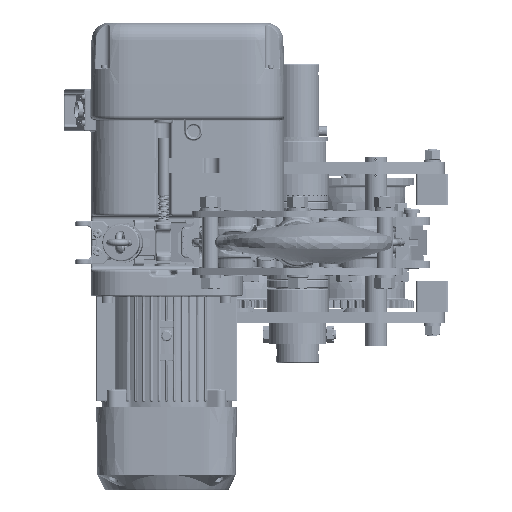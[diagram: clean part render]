
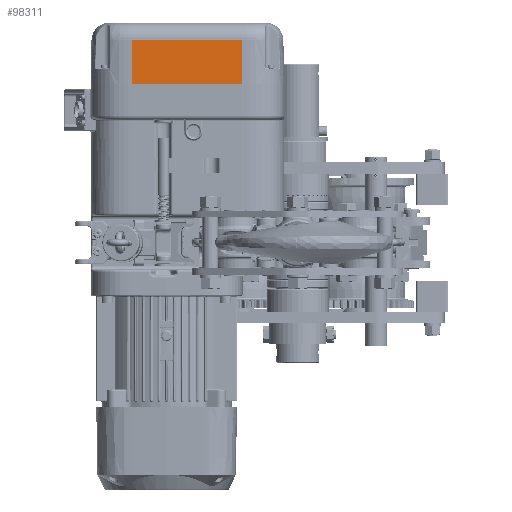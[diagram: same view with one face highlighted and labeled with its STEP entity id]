
A CAD part, front view. The second image highlights one B-rep face of the part: STEP entity #98311.
In plain terms, the highlighted planar face has unit normal (0, -1, 0.018).
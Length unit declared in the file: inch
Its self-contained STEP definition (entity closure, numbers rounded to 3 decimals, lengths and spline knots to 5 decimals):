
#773 = VERTEX_POINT ( 'NONE', #1935 ) ;
#1563 = ORIENTED_EDGE ( 'NONE', *, *, #74669, .T. ) ;
#1935 = CARTESIAN_POINT ( 'NONE',  ( -3.53868, -5.1674, 2.8152 ) ) ;
#2475 = ORIENTED_EDGE ( 'NONE', *, *, #44614, .F. ) ;
#6295 = CARTESIAN_POINT ( 'NONE',  ( 0., -5.21654, 0. ) ) ;
#7720 = VERTEX_POINT ( 'NONE', #135838 ) ;
#28823 = FACE_OUTER_BOUND ( 'NONE', #161190, .T. ) ;
#43645 = DIRECTION ( 'NONE',  ( 0., -0.017, -1. ) ) ;
#44614 = EDGE_CURVE ( 'NONE', #145101, #7720, #57319, .T. ) ;
#47351 = DIRECTION ( 'NONE',  ( 0., -0.017, -1. ) ) ;
#52832 = CARTESIAN_POINT ( 'NONE',  ( 0., -5.1674, 2.8152 ) ) ;
#53027 = ORIENTED_EDGE ( 'NONE', *, *, #122763, .F. ) ;
#57319 = LINE ( 'NONE', #127292, #64156 ) ;
#63055 = LINE ( 'NONE', #186611, #155203 ) ;
#64156 = VECTOR ( 'NONE', #43645, 39.37008 ) ;
#68874 = DIRECTION ( 'NONE',  ( 0., -0.017, -1. ) ) ;
#74669 = EDGE_CURVE ( 'NONE', #773, #134767, #110078, .T. ) ;
#85924 = PLANE ( 'NONE',  #137307 ) ;
#98311 = ADVANCED_FACE ( 'NONE', ( #28823 ), #85924, .T. ) ;
#102469 = VECTOR ( 'NONE', #133901, 39.37008 ) ;
#104549 = DIRECTION ( 'NONE',  ( 0., -1., 0.017 ) ) ;
#110078 = LINE ( 'NONE', #250840, #193394 ) ;
#112690 = EDGE_CURVE ( 'NONE', #145101, #773, #153839, .T. ) ;
#122763 = EDGE_CURVE ( 'NONE', #7720, #134767, #63055, .T. ) ;
#127292 = CARTESIAN_POINT ( 'NONE',  ( 3.53868, -5.21654, 0. ) ) ;
#133901 = DIRECTION ( 'NONE',  ( -1., 0., 0. ) ) ;
#134767 = VERTEX_POINT ( 'NONE', #162640 ) ;
#135838 = CARTESIAN_POINT ( 'NONE',  ( 3.53868, -5.21654, 0. ) ) ;
#137307 = AXIS2_PLACEMENT_3D ( 'NONE', #6295, #104549, #47351 ) ;
#145101 = VERTEX_POINT ( 'NONE', #170288 ) ;
#153839 = LINE ( 'NONE', #52832, #102469 ) ;
#155203 = VECTOR ( 'NONE', #164065, 39.37008 ) ;
#161190 = EDGE_LOOP ( 'NONE', ( #2475, #201871, #1563, #53027 ) ) ;
#162640 = CARTESIAN_POINT ( 'NONE',  ( -3.53868, -5.21654, 0. ) ) ;
#164065 = DIRECTION ( 'NONE',  ( -1., 0., 0. ) ) ;
#170288 = CARTESIAN_POINT ( 'NONE',  ( 3.53868, -5.1674, 2.8152 ) ) ;
#186611 = CARTESIAN_POINT ( 'NONE',  ( 0., -5.21654, 0. ) ) ;
#193394 = VECTOR ( 'NONE', #68874, 39.37008 ) ;
#201871 = ORIENTED_EDGE ( 'NONE', *, *, #112690, .T. ) ;
#250840 = CARTESIAN_POINT ( 'NONE',  ( -3.53868, -5.21654, 0. ) ) ;
